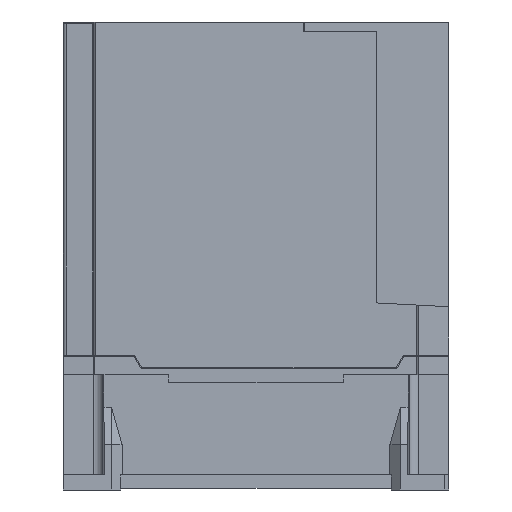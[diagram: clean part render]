
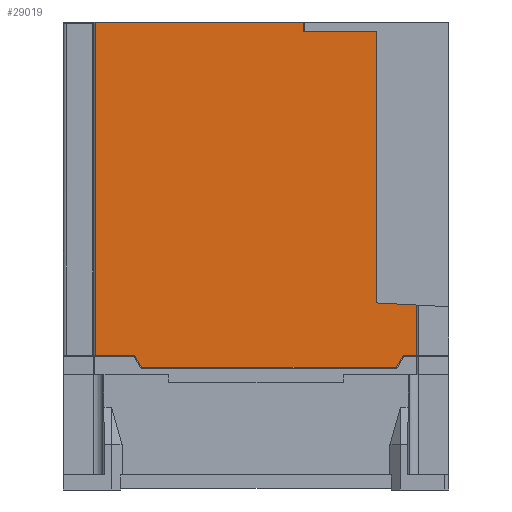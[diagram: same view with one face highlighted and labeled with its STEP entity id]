
A CAD part, left-side view. The second image highlights one B-rep face of the part: STEP entity #29019.
In plain terms, the highlighted planar face has unit normal (-1, 0, 0).
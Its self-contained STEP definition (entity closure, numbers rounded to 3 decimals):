
#860=DIRECTION('',(0.,0.,1.));
#861=VECTOR('',#860,90.342);
#862=CARTESIAN_POINT('',(-54.,24.,17.858));
#863=LINE('',#862,#861);
#8501=DIRECTION('',(0.,-1.,0.));
#8502=VECTOR('',#8501,4.54);
#8503=CARTESIAN_POINT('',(-54.,15.091,0.5));
#8504=LINE('',#8503,#8502);
#8505=DIRECTION('',(0.,-0.5,0.866));
#8506=VECTOR('',#8505,4.619);
#8507=CARTESIAN_POINT('',(-54.,17.4,-3.5));
#8508=LINE('',#8507,#8506);
#8509=DIRECTION('',(0.,-1.,0.));
#8510=VECTOR('',#8509,84.6);
#8511=CARTESIAN_POINT('',(-54.,102.,-3.5));
#8512=LINE('',#8511,#8510);
#8513=DIRECTION('',(0.,-0.5,-0.866));
#8514=VECTOR('',#8513,4.619);
#8515=CARTESIAN_POINT('',(-54.,104.309,0.5));
#8516=LINE('',#8515,#8514);
#8517=DIRECTION('',(0.,-1.,0.));
#8518=VECTOR('',#8517,13.14);
#8519=CARTESIAN_POINT('',(-54.,117.45,0.5));
#8520=LINE('',#8519,#8518);
#8521=DIRECTION('',(0.,0.,1.));
#8522=VECTOR('',#8521,110.7);
#8523=CARTESIAN_POINT('',(-54.,117.45,0.5));
#8524=LINE('',#8523,#8522);
#8525=DIRECTION('',(0.,-0.052,-0.999));
#8526=VECTOR('',#8525,3.004);
#8527=CARTESIAN_POINT('',(-54.,48.32,111.2));
#8528=LINE('',#8527,#8526);
#8529=DIRECTION('',(0.,1.,0.));
#8530=VECTOR('',#8529,24.162);
#8531=CARTESIAN_POINT('',(-54.,24.,108.2));
#8532=LINE('',#8531,#8530);
#8533=DIRECTION('',(0.,0.999,0.052));
#8534=VECTOR('',#8533,13.468);
#8535=CARTESIAN_POINT('',(-54.,10.55,17.153));
#8536=LINE('',#8535,#8534);
#8537=DIRECTION('',(0.,0.,1.));
#8538=VECTOR('',#8537,16.653);
#8539=CARTESIAN_POINT('',(-54.,10.55,0.5));
#8540=LINE('',#8539,#8538);
#8626=DIRECTION('',(0.,-1.,0.));
#8627=VECTOR('',#8626,69.13);
#8628=CARTESIAN_POINT('',(-54.,117.45,111.2));
#8629=LINE('',#8628,#8627);
#11561=CARTESIAN_POINT('',(-54.,102.,-3.5));
#11562=CARTESIAN_POINT('',(-54.,17.4,-3.5));
#11563=VERTEX_POINT('',#11561);
#11564=VERTEX_POINT('',#11562);
#11573=CARTESIAN_POINT('',(-54.,15.091,0.5));
#11574=VERTEX_POINT('',#11573);
#11575=CARTESIAN_POINT('',(-54.,104.309,0.5));
#11576=VERTEX_POINT('',#11575);
#11597=CARTESIAN_POINT('',(-54.,24.,17.858));
#11598=VERTEX_POINT('',#11597);
#11653=CARTESIAN_POINT('',(-54.,117.45,0.5));
#11654=VERTEX_POINT('',#11653);
#11655=CARTESIAN_POINT('',(-54.,10.55,0.5));
#11656=VERTEX_POINT('',#11655);
#11896=CARTESIAN_POINT('',(-54.,10.55,17.153));
#11897=VERTEX_POINT('',#11896);
#12014=CARTESIAN_POINT('',(-54.,117.45,111.2));
#12015=CARTESIAN_POINT('',(-54.,48.32,111.2));
#12016=VERTEX_POINT('',#12014);
#12017=VERTEX_POINT('',#12015);
#12138=CARTESIAN_POINT('',(-54.,24.,108.2));
#12140=VERTEX_POINT('',#12138);
#12142=CARTESIAN_POINT('',(-54.,48.162,108.2));
#12143=VERTEX_POINT('',#12142);
#28993=CARTESIAN_POINT('',(-54.,128.,0.));
#28994=DIRECTION('',(-1.,0.,0.));
#28995=DIRECTION('',(0.,-1.,0.));
#28996=AXIS2_PLACEMENT_3D('',#28993,#28994,#28995);
#28997=PLANE('',#28996);
#28998=ORIENTED_EDGE('',*,*,#18557,.F.);
#29000=ORIENTED_EDGE('',*,*,#28999,.F.);
#29002=ORIENTED_EDGE('',*,*,#29001,.F.);
#29004=ORIENTED_EDGE('',*,*,#29003,.F.);
#29005=ORIENTED_EDGE('',*,*,#18630,.F.);
#29007=ORIENTED_EDGE('',*,*,#29006,.T.);
#29009=ORIENTED_EDGE('',*,*,#29008,.T.);
#29011=ORIENTED_EDGE('',*,*,#29010,.T.);
#29012=ORIENTED_EDGE('',*,*,#28977,.F.);
#29013=ORIENTED_EDGE('',*,*,#14081,.F.);
#29014=ORIENTED_EDGE('',*,*,#19201,.F.);
#29016=ORIENTED_EDGE('',*,*,#29015,.F.);
#29017=EDGE_LOOP('',(#28998,#29000,#29002,#29004,#29005,#29007,#29009,#29011,
#29012,#29013,#29014,#29016));
#29018=FACE_OUTER_BOUND('',#29017,.F.);
#29019=ADVANCED_FACE('',(#29018),#28997,.T.);
#14081=EDGE_CURVE('',#11598,#12140,#863,.T.);
#18557=EDGE_CURVE('',#11574,#11656,#8504,.T.);
#18630=EDGE_CURVE('',#11654,#11576,#8520,.T.);
#19201=EDGE_CURVE('',#11897,#11598,#8536,.T.);
#28977=EDGE_CURVE('',#12140,#12143,#8532,.T.);
#28999=EDGE_CURVE('',#11564,#11574,#8508,.T.);
#29001=EDGE_CURVE('',#11563,#11564,#8512,.T.);
#29003=EDGE_CURVE('',#11576,#11563,#8516,.T.);
#29006=EDGE_CURVE('',#11654,#12016,#8524,.T.);
#29008=EDGE_CURVE('',#12016,#12017,#8629,.T.);
#29010=EDGE_CURVE('',#12017,#12143,#8528,.T.);
#29015=EDGE_CURVE('',#11656,#11897,#8540,.T.);
